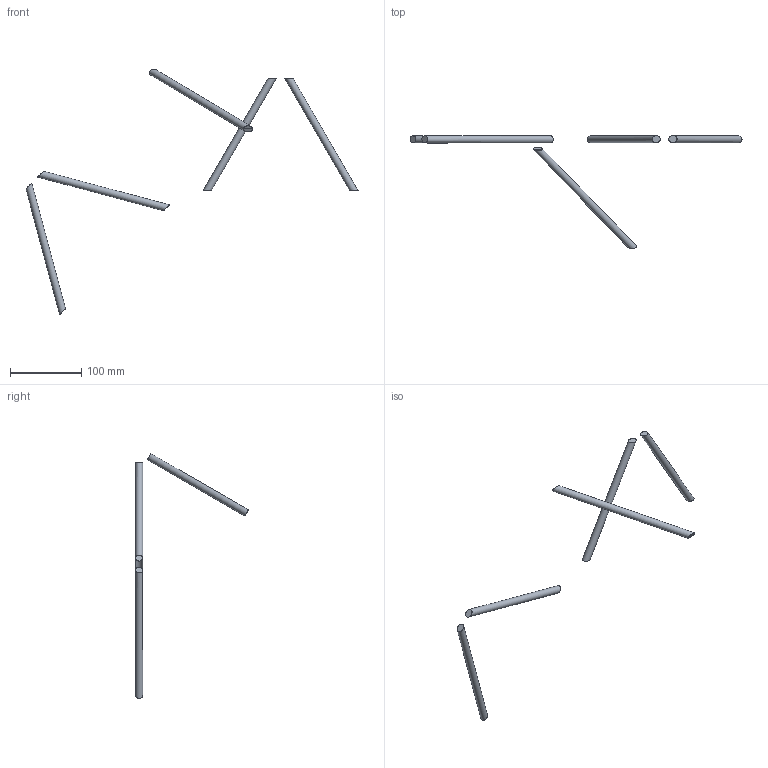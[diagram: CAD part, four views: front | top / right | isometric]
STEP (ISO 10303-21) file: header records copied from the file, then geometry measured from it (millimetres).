
FILE_DESCRIPTION(/* description */ (''),/* implementation_level */ '2;1');
FILE_NAME(/* name */ 'M:\Symbolen_NIEUW\STP\Corners\E20D\E20D-C005_260031584.stp',/* time_stamp */ '2017-11-16T14:45:17+01:00',/* author */ ('Kees'),/* organization */ (''),/* preprocessor_version */ 'ST-DEVELOPER v16.13',/* originating_system */ 'Autodesk Inventor 2018',/* authorisation */ '');
FILE_SCHEMA (('AUTOMOTIVE_DESIGN { 1 0 10303 214 3 1 1 }'));
Length unit declared in the file: millimetre
Products named in the file (1): 260031584
Bounding box: 465.95 x 158.19 x 343.76 mm (x, y, z)
Volume: 73501.8 mm3; surface area: 30331.3 mm2
Topology: 5 solids, 5 shells, 17 faces, 23 edges, 16 vertices
Faces by surface type: plane 12, cylinder 5
Full cylindrical faces by diameter (mm): 10 x5
Entity records: 399 total; most frequent: DIRECTION 62, CARTESIAN_POINT 44, AXIS2_PLACEMENT_3D 30, ORIENTED_EDGE 28, EDGE_LOOP 22, STYLED_ITEM 22, FACE_OUTER_BOUND 17, ADVANCED_FACE 17
